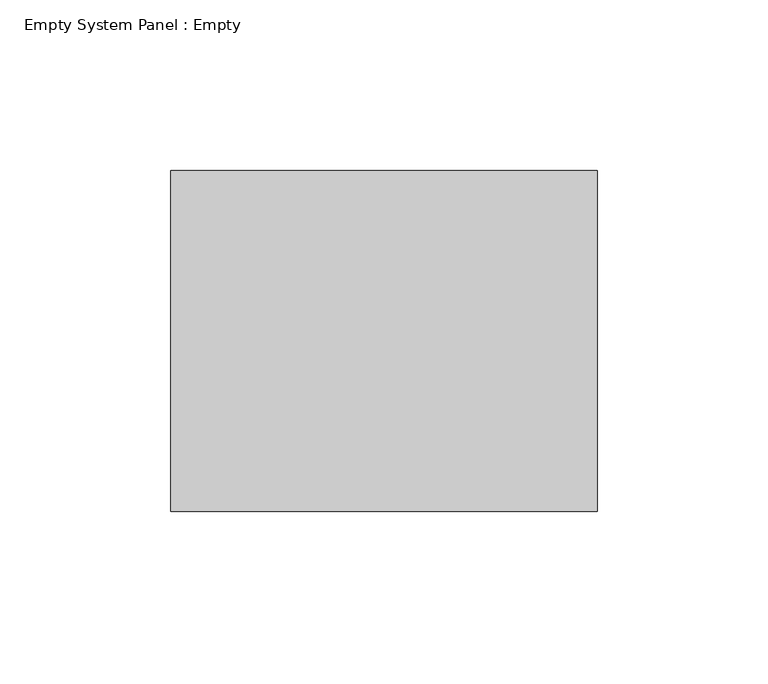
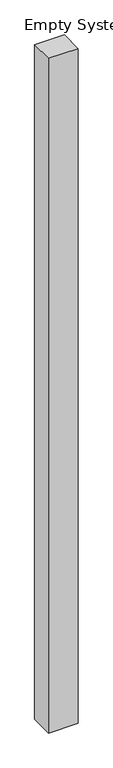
"""IFC4 building model written with IfcOpenShell, lengths in millimetres: plate geometry, Empty System Panel : Empty."""

from ifc_helpers import new_model, si_unit, origin, origin_with_axes, place, context, project, spatial, polyline, outline, extrude, source, transform, mapped, element, save


def empty_system_panel_empty_02e968fa(model_context):
    return source(origin(), model_context, "Body", "SweptSolid", [
        extrude(outline(polyline([(62.4999998, 50.0), (-62.4999998, 50.0), (-62.4999998, 150.0), (62.4999998, 150.0), (62.4999998, 50.0)])), origin_with_axes(), (0.0, 0.0, 1.0), 3000.0),
    ])


if __name__ == "__main__":
    model = new_model("IFC4")
    model_context = context("Model", 3, world=origin())
    ifc_project = project(units=[si_unit("LENGTHUNIT", "METRE", prefix="MILLI")], contexts=[model_context])
    site = spatial("IfcSite", under=ifc_project)
    building = spatial("IfcBuilding", under=site)
    placement = place(None, origin())
    empty_system_panel_empty_shape = empty_system_panel_empty_02e968fa(model_context)
    element("IfcPlate", 1, ObjectType="Empty System Panel : Empty", at=placement, inside=building, context=model_context, shape_type="MappedRepresentation", body=[
        mapped(empty_system_panel_empty_shape, transform((0.0, 0.0, 0.0), x_axis=(1.0, 0.0, 0.0), y_axis=(0.0, 1.0, 0.0), z_axis=(0.0, 0.0, 1.0))),
    ])
    save(model, "model.ifc")
